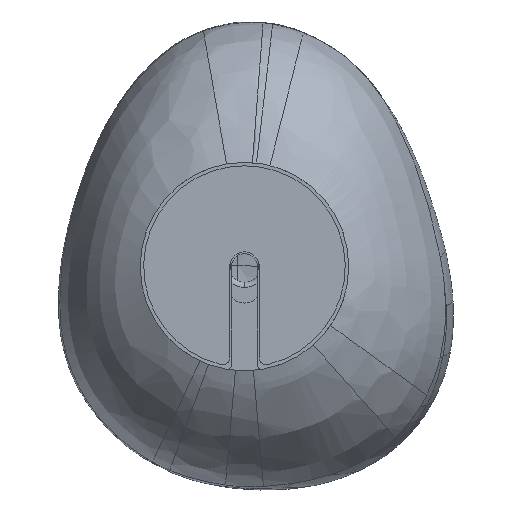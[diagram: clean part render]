
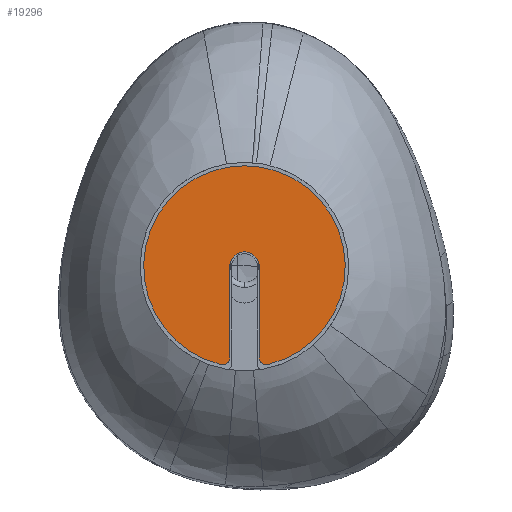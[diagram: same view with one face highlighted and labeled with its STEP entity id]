
A CAD part, front view. The second image highlights one B-rep face of the part: STEP entity #19296.
In plain terms, the highlighted planar face has unit normal (0, -1, 0).
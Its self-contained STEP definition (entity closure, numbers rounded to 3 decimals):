
#4001 = ORIENTED_EDGE ( 'NONE', *, *, #7684, .F. ) ;
#7684 = EDGE_CURVE ( 'NONE', #154136, #49349, #112052, .T. ) ;
#14896 = ORIENTED_EDGE ( 'NONE', *, *, #33709, .F. ) ;
#19296 = ADVANCED_FACE ( 'NONE', ( #194677 ), #107122, .F. ) ;
#20419 = DIRECTION ( 'NONE',  ( 0., -1., 0. ) ) ;
#27629 = VERTEX_POINT ( 'NONE', #110809 ) ;
#27880 = EDGE_CURVE ( 'NONE', #133328, #120587, #44094, .T. ) ;
#30596 = CARTESIAN_POINT ( 'NONE',  ( 4.301, -10.2, -31.451 ) ) ;
#33709 = EDGE_CURVE ( 'NONE', #49349, #27629, #169841, .T. ) ;
#38291 = CIRCLE ( 'NONE', #108628, 4.25 ) ;
#44094 = LINE ( 'NONE', #104799, #95997 ) ;
#44456 = DIRECTION ( 'NONE',  ( 0., 1., 0. ) ) ;
#49349 = VERTEX_POINT ( 'NONE', #93131 ) ;
#49682 = EDGE_CURVE ( 'NONE', #58162, #27629, #112686, .T. ) ;
#57444 = CARTESIAN_POINT ( 'NONE',  ( 4.301, -10.2, -5.185 ) ) ;
#58162 = VERTEX_POINT ( 'NONE', #103191 ) ;
#58295 = CARTESIAN_POINT ( 'NONE',  ( 8.551, -10.2, -5.185 ) ) ;
#58403 = DIRECTION ( 'NONE',  ( 0., 0., -1. ) ) ;
#58494 = DIRECTION ( 'NONE',  ( 0., -1., 0. ) ) ;
#64070 = EDGE_LOOP ( 'NONE', ( #4001, #123314, #112326, #163423, #81887, #148940, #14896 ) ) ;
#72842 = DIRECTION ( 'NONE',  ( 0., 1., 0. ) ) ;
#73698 = AXIS2_PLACEMENT_3D ( 'NONE', #148945, #44456, #58403 ) ;
#74398 = DIRECTION ( 'NONE',  ( 0., 0., -1. ) ) ;
#79162 = DIRECTION ( 'NONE',  ( 0., 0., -1. ) ) ;
#81887 = ORIENTED_EDGE ( 'NONE', *, *, #93970, .T. ) ;
#84159 = CARTESIAN_POINT ( 'NONE',  ( 1.838, -10.2, -33.397 ) ) ;
#88106 = LINE ( 'NONE', #133857, #91572 ) ;
#89128 = DIRECTION ( 'NONE',  ( 0., 1., 0. ) ) ;
#91572 = VECTOR ( 'NONE', #130914, 1000. ) ;
#93131 = CARTESIAN_POINT ( 'NONE',  ( 8.551, -10.2, 23.815 ) ) ;
#93970 = EDGE_CURVE ( 'NONE', #190494, #58162, #88106, .T. ) ;
#95997 = VECTOR ( 'NONE', #165460, 1000. ) ;
#101122 = DIRECTION ( 'NONE',  ( 0., 0., -1. ) ) ;
#103191 = CARTESIAN_POINT ( 'NONE',  ( 12.801, -10.2, -31.451 ) ) ;
#104799 = CARTESIAN_POINT ( 'NONE',  ( 4.301, -10.2, -5.185 ) ) ;
#107122 = PLANE ( 'NONE',  #73698 ) ;
#108628 = AXIS2_PLACEMENT_3D ( 'NONE', #169952, #170920, #186820 ) ;
#110809 = CARTESIAN_POINT ( 'NONE',  ( 15.264, -10.2, -33.397 ) ) ;
#112052 = CIRCLE ( 'NONE', #115320, 29. ) ;
#112326 = ORIENTED_EDGE ( 'NONE', *, *, #27880, .T. ) ;
#112686 = CIRCLE ( 'NONE', #163529, 2. ) ;
#115320 = AXIS2_PLACEMENT_3D ( 'NONE', #58295, #89128, #101122 ) ;
#117277 = CARTESIAN_POINT ( 'NONE',  ( 12.801, -10.2, -5.185 ) ) ;
#117633 = DIRECTION ( 'NONE',  ( 0., 0., -1. ) ) ;
#120587 = VERTEX_POINT ( 'NONE', #57444 ) ;
#123314 = ORIENTED_EDGE ( 'NONE', *, *, #132283, .T. ) ;
#130914 = DIRECTION ( 'NONE',  ( 0., 0., -1. ) ) ;
#132283 = EDGE_CURVE ( 'NONE', #154136, #133328, #191079, .T. ) ;
#133328 = VERTEX_POINT ( 'NONE', #30596 ) ;
#133857 = CARTESIAN_POINT ( 'NONE',  ( 12.801, -10.2, -5.185 ) ) ;
#142706 = EDGE_CURVE ( 'NONE', #120587, #190494, #38291, .T. ) ;
#148940 = ORIENTED_EDGE ( 'NONE', *, *, #49682, .T. ) ;
#148945 = CARTESIAN_POINT ( 'NONE',  ( 8.551, -10.2, -5.185 ) ) ;
#154136 = VERTEX_POINT ( 'NONE', #84159 ) ;
#156159 = AXIS2_PLACEMENT_3D ( 'NONE', #160999, #58494, #74398 ) ;
#156777 = AXIS2_PLACEMENT_3D ( 'NONE', #193215, #72842, #117633 ) ;
#160999 = CARTESIAN_POINT ( 'NONE',  ( 2.301, -10.2, -31.451 ) ) ;
#163423 = ORIENTED_EDGE ( 'NONE', *, *, #142706, .T. ) ;
#163529 = AXIS2_PLACEMENT_3D ( 'NONE', #168730, #20419, #79162 ) ;
#165460 = DIRECTION ( 'NONE',  ( 0., 0., 1. ) ) ;
#168730 = CARTESIAN_POINT ( 'NONE',  ( 14.801, -10.2, -31.451 ) ) ;
#169841 = CIRCLE ( 'NONE', #156777, 29. ) ;
#169952 = CARTESIAN_POINT ( 'NONE',  ( 8.551, -10.2, -5.185 ) ) ;
#170920 = DIRECTION ( 'NONE',  ( 0., 1., 0. ) ) ;
#186820 = DIRECTION ( 'NONE',  ( 0., 0., -1. ) ) ;
#190494 = VERTEX_POINT ( 'NONE', #117277 ) ;
#191079 = CIRCLE ( 'NONE', #156159, 2. ) ;
#193215 = CARTESIAN_POINT ( 'NONE',  ( 8.551, -10.2, -5.185 ) ) ;
#194677 = FACE_OUTER_BOUND ( 'NONE', #64070, .T. ) ;
